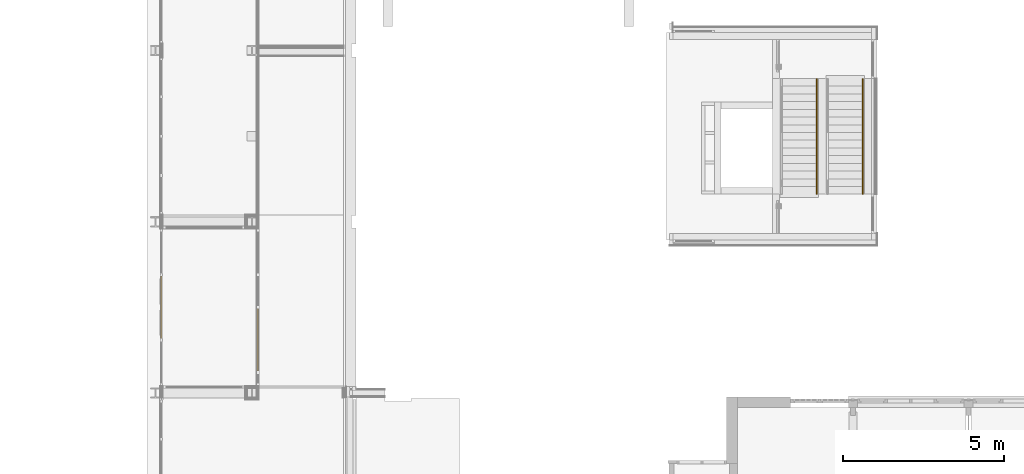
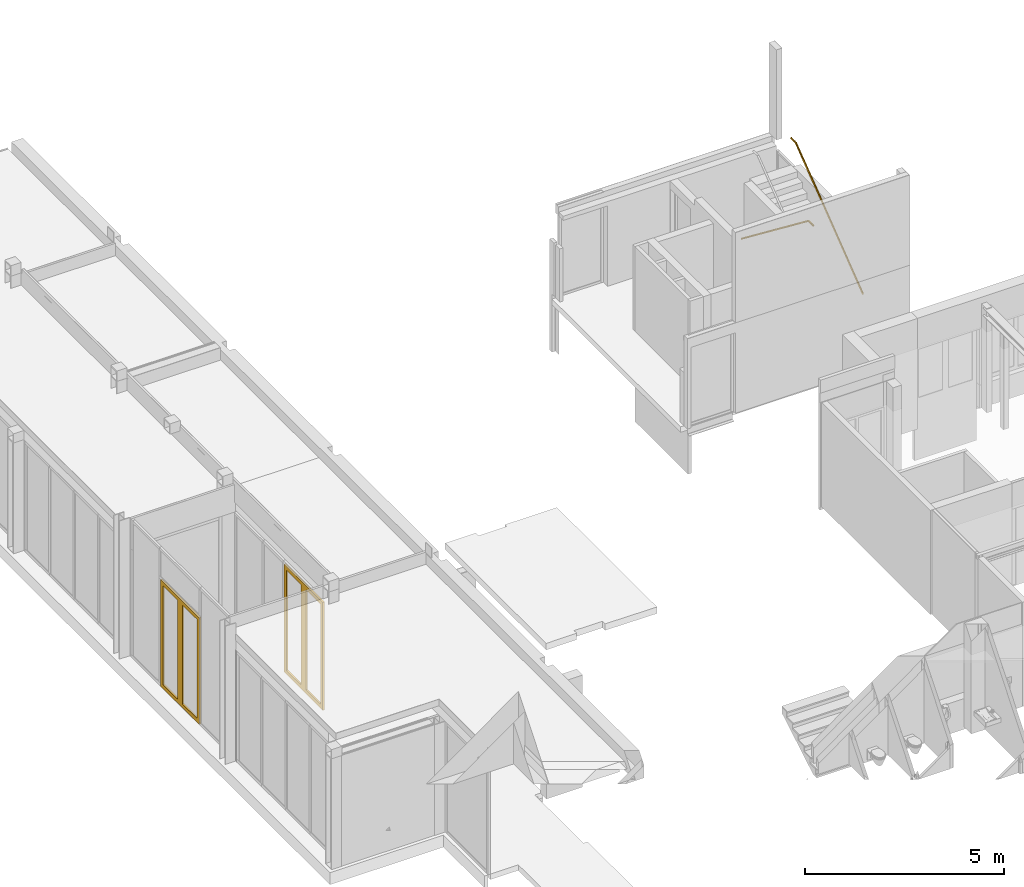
# One storey, part 79 of 99: 2 doors, 2 railings, 4 elements without a shape of their own.
"""IFC2X3 building model written with IfcOpenShell, lengths in millimetres."""

from ifc_helpers import new_model, entity, si_unit, converted_unit, derived_unit, money_unit, direction, frame, origin_with_axes, place, context, subcontext, project, spatial, faceted_brep, material, type_object, element, aggregate, save


model = new_model("IFC2X3")

# Units and contexts
model_context = context("Model", 3, precision=0.01, world=origin_with_axes(), true_north=direction((0.0, 1.0)))
body_context = subcontext(model_context, "Body", "Model", "MODEL_VIEW")
ifc_project = project(units=[si_unit("LENGTHUNIT", "METRE", prefix="MILLI"), si_unit("AREAUNIT", "SQUARE_METRE"), si_unit("VOLUMEUNIT", "CUBIC_METRE"), converted_unit("PLANEANGLEUNIT", "DEGREE", entity("IfcPlaneAngleMeasure", 0.0174532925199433), si_unit("PLANEANGLEUNIT", "RADIAN"), dimensions=[0, 0, 0, 0, 0, 0, 0]), money_unit("EUR"), converted_unit("TIMEUNIT", "Year", entity("IfcTimeMeasure", 31557600.0), si_unit("TIMEUNIT", "SECOND"), dimensions=[0, 0, 1, 0, 0, 0, 0]), si_unit("MASSUNIT", "GRAM", prefix="KILO"), si_unit("THERMODYNAMICTEMPERATUREUNIT", "DEGREE_CELSIUS"), si_unit("LUMINOUSINTENSITYUNIT", "LUMEN"), si_unit("ENERGYUNIT", "JOULE", prefix="MEGA"), derived_unit("THERMALCONDUCTANCEUNIT", [(si_unit("POWERUNIT", "WATT"), 1), (si_unit("LENGTHUNIT", "METRE"), -1), (si_unit("THERMODYNAMICTEMPERATUREUNIT", "KELVIN"), -1)]), derived_unit("SPECIFICHEATCAPACITYUNIT", [(si_unit("ENERGYUNIT", "JOULE"), 1), (si_unit("MASSUNIT", "GRAM", prefix="KILO"), -1), (si_unit("THERMODYNAMICTEMPERATUREUNIT", "KELVIN"), -1)]), derived_unit("MASSDENSITYUNIT", [(si_unit("MASSUNIT", "GRAM", prefix="KILO"), 1), (si_unit("VOLUMEUNIT", "CUBIC_METRE"), -1)])], contexts=[model_context])

# Site, building, storey
site_placement = place(None, origin_with_axes())
site = spatial("IfcSite", under=ifc_project, at=site_placement, Name="Site", CompositionType="ELEMENT")
building_placement = place(site_placement, origin_with_axes())
building = spatial("IfcBuilding", under=site, at=building_placement, Name="Naam gebouw", CompositionType="ELEMENT")
storey_placement = place(building_placement, frame((0.0, 0.0, 7650.0), z_axis=(0.0, 0.0, 1.0), x_axis=(1.0, 0.0, 0.0)))
storey = spatial("IfcBuildingStorey", under=building, at=storey_placement, Name="2e verdieping N", CompositionType="ELEMENT", Elevation=7650.0)

# Curtain wall, door
curtain_wall_type = type_object("IfcCurtainWallType", Name="Curtain Wall:21_CW_alu kozijn 084x065", PredefinedType="NOTDEFINED")
curtain_wall_1_placement = place(storey_placement, frame((0.0, 0.0, -7650.0), z_axis=(0.0, 0.0, 1.0), x_axis=(1.0, 0.0, 0.0)))
curtain_wall_1 = element("IfcCurtainWall", 1, at=curtain_wall_1_placement, inside=storey, type_object=curtain_wall_type, Name="Curtain Wall:21_CW_alu kozijn 084x065", ObjectType="Curtain Wall:21_CW_alu kozijn 084x065")
ifc_material_1 = material(Name="RAL 7024 - Grafietgrijs")
door_style_1 = type_object("IfcDoorStyle", Name="31_DO_stolpdeur_1:0std", ConstructionType="NOTDEFINED", OperationType="NOTDEFINED", ParameterTakesPrecedence=False, Sizeable=False)
door_1_placement = place(curtain_wall_1_placement, frame((14474.50000003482, 30620.91242632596, 4150.0), z_axis=(0.0, 0.0, 1.0), x_axis=(0.0, 1.0, 0.0)))
door_1 = element("IfcDoor", 2, at=door_1_placement, type_object=door_style_1, material=ifc_material_1, Name="31_DO_stolpdeur_1:0std", ObjectType="DOOR", context=body_context, shape_type="Brep", body=[
    faceted_brep([(0.0, -20.0, 0.0), (0.0, -20.0, 3278.0), (0.0, 5.000000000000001, 3278.0), (0.0, 5.000000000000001, 0.0), (972.9999914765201, -20.0, 0.0), (972.9999914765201, -20.0, 3278.0), (852.9999908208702, -20.0, 3157.99999934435), (852.9999908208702, -20.0, 120.0000006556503), (120.00000065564, -20.0, 120.0000006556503), (120.00000065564, -20.0, 3157.99999934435), (972.9999914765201, 5.000000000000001, 3278.0), (972.9999914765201, 5.000000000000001, 0.0), (852.9999908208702, 5.000000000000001, 3157.99999934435), (120.00000065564, 5.000000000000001, 3157.99999934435), (120.00000065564, 5.000000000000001, 120.0000006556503), (852.9999908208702, 5.000000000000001, 120.0000006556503)], [[[0, 1, 2, 3]], [[0, 4, 5, 1], [6, 7, 8, 9]], [[1, 5, 10, 2]], [[3, 2, 10, 11], [12, 13, 14, 15]], [[4, 0, 3, 11]], [[5, 4, 11, 10]], [[7, 6, 12, 15]], [[8, 7, 15, 14]], [[9, 8, 14, 13]], [[6, 9, 13, 12]]]),
    faceted_brep([(-972.9999999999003, -20.0, 0.0), (-972.9999999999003, -20.0, 3278.0), (-972.9999999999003, 5.000000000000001, 3278.0), (-972.9999999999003, 5.000000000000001, 0.0), (-8.523370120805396e-06, -20.0, 0.0), (-8.523370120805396e-06, -20.0, 3278.0), (-120.0000091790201, -20.0, 3157.99999934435), (-120.0000091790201, -20.0, 120.0000006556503), (-852.9999993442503, -20.0, 120.0000006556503), (-852.9999993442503, -20.0, 3157.99999934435), (-8.523370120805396e-06, 5.000000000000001, 3278.0), (-8.523370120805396e-06, 5.000000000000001, 0.0), (-120.0000091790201, 5.000000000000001, 3157.99999934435), (-852.9999993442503, 5.000000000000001, 3157.99999934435), (-852.9999993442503, 5.000000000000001, 120.0000006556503), (-120.0000091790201, 5.000000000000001, 120.0000006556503)], [[[0, 1, 2, 3]], [[0, 4, 5, 1], [6, 7, 8, 9]], [[1, 5, 10, 2]], [[3, 2, 10, 11], [12, 13, 14, 15]], [[4, 0, 3, 11]], [[5, 4, 11, 10]], [[7, 6, 12, 15]], [[8, 7, 15, 14]], [[9, 8, 14, 13]], [[6, 9, 13, 12]]]),
    faceted_brep([(-972.9999999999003, 5.0, 0.0), (-972.9999999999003, 5.0, 3278.0), (-972.9999999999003, 30.0, 3278.0), (-972.9999999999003, 30.0, 0.0), (-8.523370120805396e-06, 5.0, 0.0), (-8.523370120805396e-06, 5.0, 3278.0), (-120.0000091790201, 5.0, 3157.99999934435), (-120.0000091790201, 5.0, 120.0000006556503), (-852.9999993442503, 5.0, 120.0000006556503), (-852.9999993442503, 5.0, 3157.99999934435), (-8.523370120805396e-06, 30.0, 3278.0), (-8.523370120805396e-06, 30.0, 0.0), (-120.0000091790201, 30.0, 3157.99999934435), (-852.9999993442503, 30.0, 3157.99999934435), (-852.9999993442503, 30.0, 120.0000006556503), (-120.0000091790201, 30.0, 120.0000006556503)], [[[0, 1, 2, 3]], [[0, 4, 5, 1], [6, 7, 8, 9]], [[1, 5, 10, 2]], [[3, 2, 10, 11], [12, 13, 14, 15]], [[4, 0, 3, 11]], [[5, 4, 11, 10]], [[7, 6, 12, 15]], [[8, 7, 15, 14]], [[9, 8, 14, 13]], [[6, 9, 13, 12]]]),
    faceted_brep([(0.0, 5.0, 0.0), (0.0, 5.0, 3278.0), (0.0, 30.0, 3278.0), (0.0, 30.0, 0.0), (972.9999914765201, 5.0, 0.0), (972.9999914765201, 5.0, 3278.0), (852.9999908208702, 5.0, 3157.99999934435), (852.9999908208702, 5.0, 120.0000006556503), (120.00000065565, 5.0, 120.0000006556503), (120.00000065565, 5.0, 3157.99999934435), (972.9999914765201, 30.0, 3278.0), (972.9999914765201, 30.0, 0.0), (852.9999908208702, 30.0, 3157.99999934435), (120.00000065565, 30.0, 3157.99999934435), (120.00000065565, 30.0, 120.0000006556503), (852.9999908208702, 30.0, 120.0000006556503)], [[[0, 1, 2, 3]], [[0, 4, 5, 1], [6, 7, 8, 9]], [[1, 5, 10, 2]], [[3, 2, 10, 11], [12, 13, 14, 15]], [[4, 0, 3, 11]], [[5, 4, 11, 10]], [[7, 6, 12, 15]], [[8, 7, 15, 14]], [[9, 8, 14, 13]], [[6, 9, 13, 12]]]),
])
aggregate(curtain_wall_1, [door_1])

curtain_wall_2_placement = place(storey_placement, frame((0.0, 0.0, -7650.0), z_axis=(0.0, 0.0, 1.0), x_axis=(1.0, 0.0, 0.0)))
curtain_wall_2 = element("IfcCurtainWall", 3, at=curtain_wall_2_placement, inside=storey, type_object=curtain_wall_type, Name="Curtain Wall:21_CW_alu kozijn 084x065", ObjectType="Curtain Wall:21_CW_alu kozijn 084x065")
ifc_material_2 = material(Name="IFC Building Material")
door_style_2 = type_object("IfcDoorStyle", Name="31_DO_stolpdeur_1:0std", ConstructionType="NOTDEFINED", OperationType="NOTDEFINED", ParameterTakesPrecedence=False, Sizeable=False)
door_2_placement = place(curtain_wall_2_placement, frame((17473.50000007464, 29605.91242631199, 4150.0), z_axis=(0.0, 0.0, 1.0), x_axis=(0.0, 1.0, 0.0)))
door_2 = element("IfcDoor", 4, at=door_2_placement, type_object=door_style_2, material=ifc_material_2, Name="31_DO_stolpdeur_1:0std", ObjectType="DOOR", context=body_context, shape_type="Brep", body=[
    faceted_brep([(0.0, -20.0, 0.0), (0.0, -20.0, 3316.0), (0.0, 5.000000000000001, 3316.0), (0.0, 5.000000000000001, 0.0), (972.9999860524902, -20.0, 0.0), (972.9999860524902, -20.0, 3316.0), (852.9999976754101, -20.0, 3196.00001162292), (852.9999976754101, -20.0, 119.9999883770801), (119.99998837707, -20.0, 119.9999883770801), (119.99998837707, -20.0, 3196.00001162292), (972.9999860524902, 5.000000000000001, 3316.0), (972.9999860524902, 5.000000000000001, 0.0), (852.9999976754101, 5.000000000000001, 3196.00001162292), (119.99998837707, 5.000000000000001, 3196.00001162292), (119.99998837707, 5.000000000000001, 119.9999883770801), (852.9999976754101, 5.000000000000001, 119.9999883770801)], [[[0, 1, 2, 3]], [[0, 4, 5, 1], [6, 7, 8, 9]], [[1, 5, 10, 2]], [[3, 2, 10, 11], [12, 13, 14, 15]], [[4, 0, 3, 11]], [[5, 4, 11, 10]], [[7, 6, 12, 15]], [[8, 7, 15, 14]], [[9, 8, 14, 13]], [[6, 9, 13, 12]]]),
    faceted_brep([(-973.0000000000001, -20.0, 0.0), (-973.0000000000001, -20.0, 3316.0), (-973.0000000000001, 5.000000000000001, 3316.0), (-973.0000000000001, 5.000000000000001, 0.0), (-1.394749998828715e-05, -20.0, 0.0), (-1.394749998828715e-05, -20.0, 3316.0), (-120.00000232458, -20.0, 3196.00001162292), (-120.00000232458, -20.0, 119.9999883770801), (-853.0000116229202, -20.0, 119.9999883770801), (-853.0000116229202, -20.0, 3196.00001162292), (-1.394749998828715e-05, 5.000000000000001, 3316.0), (-1.394749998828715e-05, 5.000000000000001, 0.0), (-120.00000232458, 5.000000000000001, 3196.00001162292), (-853.0000116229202, 5.000000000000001, 3196.00001162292), (-853.0000116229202, 5.000000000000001, 119.9999883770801), (-120.00000232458, 5.000000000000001, 119.9999883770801)], [[[0, 1, 2, 3]], [[0, 4, 5, 1], [6, 7, 8, 9]], [[1, 5, 10, 2]], [[3, 2, 10, 11], [12, 13, 14, 15]], [[4, 0, 3, 11]], [[5, 4, 11, 10]], [[7, 6, 12, 15]], [[8, 7, 15, 14]], [[9, 8, 14, 13]], [[6, 9, 13, 12]]]),
    faceted_brep([(-973.0000000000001, 5.0, 0.0), (-973.0000000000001, 5.0, 3316.0), (-973.0000000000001, 30.0, 3316.0), (-973.0000000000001, 30.0, 0.0), (-1.394749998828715e-05, 5.0, 0.0), (-1.394749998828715e-05, 5.0, 3316.0), (-120.00000232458, 5.0, 3196.00001162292), (-120.00000232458, 5.0, 119.9999883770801), (-853.0000116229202, 5.0, 119.9999883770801), (-853.0000116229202, 5.0, 3196.00001162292), (-1.394749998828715e-05, 30.0, 3316.0), (-1.394749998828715e-05, 30.0, 0.0), (-120.00000232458, 30.0, 3196.00001162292), (-853.0000116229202, 30.0, 3196.00001162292), (-853.0000116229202, 30.0, 119.9999883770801), (-120.00000232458, 30.0, 119.9999883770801)], [[[0, 1, 2, 3]], [[0, 4, 5, 1], [6, 7, 8, 9]], [[1, 5, 10, 2]], [[3, 2, 10, 11], [12, 13, 14, 15]], [[4, 0, 3, 11]], [[5, 4, 11, 10]], [[7, 6, 12, 15]], [[8, 7, 15, 14]], [[9, 8, 14, 13]], [[6, 9, 13, 12]]]),
    faceted_brep([(0.0, 5.0, 0.0), (0.0, 5.0, 3316.0), (0.0, 30.0, 3316.0), (0.0, 30.0, 0.0), (972.9999860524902, 5.0, 0.0), (972.9999860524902, 5.0, 3316.0), (852.9999976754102, 5.0, 3196.00001162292), (852.9999976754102, 5.0, 119.9999883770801), (119.99998837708, 5.0, 119.9999883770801), (119.99998837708, 5.0, 3196.00001162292), (972.9999860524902, 30.0, 3316.0), (972.9999860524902, 30.0, 0.0), (852.9999976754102, 30.0, 3196.00001162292), (119.99998837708, 30.0, 3196.00001162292), (119.99998837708, 30.0, 119.9999883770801), (852.9999976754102, 30.0, 119.9999883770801)], [[[0, 1, 2, 3]], [[0, 4, 5, 1], [6, 7, 8, 9]], [[1, 5, 10, 2]], [[3, 2, 10, 11], [12, 13, 14, 15]], [[4, 0, 3, 11]], [[5, 4, 11, 10]], [[7, 6, 12, 15]], [[8, 7, 15, 14]], [[9, 8, 14, 13]], [[6, 9, 13, 12]]]),
])
aggregate(curtain_wall_2, [door_2])

# Stair, railing
stair_1_placement = place(storey_placement, frame((0.0, 0.0, -7650.0), z_axis=(0.0, 0.0, 1.0), x_axis=(1.0, 0.0, 0.0)))
stair_1 = element("IfcStair", 5, at=stair_1_placement, inside=storey, Name="Precast Stair:Stair", ObjectType="Precast Stair:24_trap - prefab", ShapeType="NOTDEFINED")
ifc_material_3 = material(Name="baluster_staal")
railing_type = type_object("IfcRailingType", Name="Railing:44_3B_leuning - staal Ø40", PredefinedType="NOTDEFINED")
railing_1_placement = place(stair_1_placement, frame((36328.59527225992, 34145.91242629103, 6977.836143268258), z_axis=(0.0, 0.0, 1.0), x_axis=(0.0, 1.0, 0.0)))
railing_1 = element("IfcRailing", 6, at=railing_1_placement, type_object=railing_type, material=ifc_material_3, Name="Railing:44_3B_leuning - staal Ø40", PredefinedType="NOTDEFINED", context=body_context, shape_type="Brep", body=[
    faceted_brep([(0.0, 31.59527223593, 48.68489197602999), (0.0, 34.09527223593, 43.22129983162), (0.0, 36.59527223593, 37.75770768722), (0.0, 39.6340011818, 31.11675744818), (0.0, 41.59527223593, 26.83052339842), (0.0, 39.09527223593, 21.36693125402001), (0.0, 36.59527223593, 15.90333910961), (0.0, 34.09527223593, 10.43974696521), (0.0, 31.59527223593, 4.976154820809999), (0.0, 26.59527223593, 4.976154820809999), (0.0, 21.59527223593, 4.976154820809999), (0.0, 16.59527223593, 4.976154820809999), (0.0, 11.59527223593, 4.976154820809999), (0.0, 9.095272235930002, 10.43974696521), (0.0, 6.59527223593, 15.90333910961), (0.0, 4.09527223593, 21.36693125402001), (0.0, 1.59527223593, 26.83052339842), (0.0, 3.556543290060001, 31.11675744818), (0.0, 5.517814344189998, 35.40299149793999), (0.0, 8.556543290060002, 42.04394173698), (0.0, 11.59527223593, 48.68489197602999), (0.0, 16.59527223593, 48.68489197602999), (0.0, 21.59527223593, 48.68489197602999), (0.0, 26.59527223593, 48.68489197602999), (3354.10761812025, 31.59527223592, 2629.48436480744), (3355.58071359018, 34.09527223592, 2625.15423778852), (3357.05380906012, 36.59527223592, 2620.8241107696), (3358.52690453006, 39.09527223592, 2616.49398375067), (3360.0, 41.59527223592, 2612.16385673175), (3361.15332459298, 39.63795749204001, 2608.77368814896), (3361.27789838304, 39.4265424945, 2608.40750663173), (3362.30664918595, 37.68064274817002, 2605.38351956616), (3362.55579676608, 37.25781275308, 2604.6511565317), (3364.09951553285, 34.63795749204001, 2600.11343411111), (3364.22408932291, 34.4265424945, 2599.74725259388), (3365.89238187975, 31.59527223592, 2594.84334865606), (3365.89238187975, 16.59527223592, 2594.84334865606), (3365.89238187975, 11.59527223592, 2594.84334865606), (3365.89238187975, 26.59527223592, 2594.84334865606), (3365.89238187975, 21.59527223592, 2594.84334865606), (3364.41928640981, 9.095272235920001, 2599.17347567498), (3362.94619093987, 6.595272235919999, 2603.50360269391), (3361.27789838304, 3.76400197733, 2608.40750663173), (3361.15332459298, 3.55258697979, 2608.77368814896), (3360.0, 1.59527223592, 2612.16385673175), (3358.52690453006, 4.095272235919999, 2616.49398375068), (3357.05380906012, 6.595272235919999, 2620.8241107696), (3355.58071359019, 9.095272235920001, 2625.15423778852), (3354.10761812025, 11.59527223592, 2629.48436480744), (3354.10761812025, 16.59527223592, 2629.48436480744), (3354.10761812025, 21.59527223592, 2629.48436480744), (3354.10761812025, 26.59527223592, 2629.48436480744), (3600.0, 39.48625981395, 2615.81677340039), (3600.0, 41.59527223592, 2612.16385673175), (3600.0, 31.59527223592, 2629.48436480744), (3600.0, 34.09527223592, 2625.15423778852), (3600.0, 36.59527223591, 2620.8241107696), (3600.0, 36.59527223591, 2603.50360269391), (3600.0, 34.09527223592, 2599.17347567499), (3600.0, 31.59527223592, 2594.84334865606), (3600.0, 39.09527223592, 2607.83372971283), (3600.0, 26.59527223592, 2594.84334865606), (3600.0, 21.59527223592, 2594.84334865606), (3600.0, 16.59527223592, 2594.84334865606), (3600.0, 11.59527223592, 2594.84334865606), (3600.0, 1.59527223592, 2612.16385673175), (3600.0, 9.095272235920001, 2599.17347567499), (3600.0, 6.595272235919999, 2603.50360269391), (3600.0, 4.095272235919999, 2607.83372971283), (3600.0, 3.704284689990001, 2615.81677345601), (3600.0, 5.81329714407, 2619.46969018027), (3600.0, 8.704284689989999, 2624.47702749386), (3600.0, 11.59527223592, 2629.48436480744), (3600.0, 26.59527223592, 2629.48436480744), (3600.0, 16.59527223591, 2629.48436480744), (3600.0, 21.59527223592, 2629.48436480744)], [[[0, 1, 2, 3, 4, 5, 6, 7, 8, 9, 10, 11, 12, 13, 14, 15, 16, 17, 18, 19, 20, 21, 22, 23]], [[2, 1, 0, 24, 25, 26, 27, 28, 4, 3]], [[7, 6, 5, 4, 28, 29, 30, 31, 32, 33, 34, 35, 8]], [[36, 37, 12, 11, 10, 9, 8, 35, 38, 39]], [[15, 14, 13, 12, 37, 40, 41, 42, 43, 44, 16]], [[20, 19, 18, 17, 16, 44, 45, 46, 47, 48]], [[22, 21, 20, 48, 49, 50, 51, 24, 0, 23]], [[52, 53, 28, 27, 26, 25, 24, 54, 55, 56]], [[57, 58, 59, 35, 34, 33, 32, 31, 30, 29, 28, 53, 60]], [[39, 38, 35, 59, 61, 62, 63, 64, 37, 36]], [[65, 44, 43, 42, 41, 40, 37, 64, 66, 67, 68]], [[46, 45, 44, 65, 69, 70, 71, 72, 48, 47]], [[73, 54, 24, 51, 50, 49, 48, 72, 74, 75]], [[68, 67, 66, 64, 63, 62, 61, 59, 58, 57, 60, 53, 52, 56, 55, 54, 73, 75, 74, 72, 71, 70, 69, 65]]]),
])
aggregate(stair_1, [railing_1])

stair_2_placement = place(storey_placement, frame((0.0, 0.0, -7650.0), z_axis=(0.0, 0.0, 1.0), x_axis=(1.0, 0.0, 0.0)))
stair_2 = element("IfcStair", 7, at=stair_2_placement, inside=storey, Name="Precast Stair:Stair", ObjectType="Precast Stair:24_trap - prefab", ShapeType="NOTDEFINED")
railing_2_placement = place(stair_2_placement, frame((34894.59527228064, 34145.91242623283, 6977.836143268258), z_axis=(0.0, 0.0, 1.0), x_axis=(0.0, 1.0, 0.0)))
railing_2 = element("IfcRailing", 8, at=railing_2_placement, type_object=railing_type, material=ifc_material_3, Name="Railing:44_3B_leuning - staal Ø40", PredefinedType="NOTDEFINED", context=body_context, shape_type="Brep", body=[
    faceted_brep([(3600.0, 11.59527223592, 48.68489197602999), (3600.0, 9.095272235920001, 43.22129983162), (3600.0, 6.595272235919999, 37.75770768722), (3600.0, 3.55654329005, 31.11675744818), (3600.0, 1.59527223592, 26.83052339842), (3600.0, 4.095272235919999, 21.36693125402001), (3600.0, 6.595272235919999, 15.90333910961), (3600.0, 9.095272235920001, 10.43974696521), (3600.0, 11.59527223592, 4.976154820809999), (3600.0, 16.59527223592, 4.976154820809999), (3600.0, 21.59527223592, 4.976154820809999), (3600.0, 26.59527223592, 4.976154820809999), (3600.0, 31.59527223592, 4.976154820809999), (3600.0, 34.09527223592, 10.43974696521), (3600.0, 36.59527223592, 15.90333910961), (3600.0, 39.09527223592, 21.36693125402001), (3600.0, 41.59527223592, 26.83052339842), (3600.0, 39.63400118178, 31.11675744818), (3600.0, 37.67273012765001, 35.40299149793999), (3600.0, 34.63400118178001, 42.04394173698), (3600.0, 31.59527223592, 48.68489197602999), (3600.0, 26.59527223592, 48.68489197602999), (3600.0, 21.59527223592, 48.68489197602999), (3600.0, 16.59527223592, 48.68489197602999), (245.89238187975, 11.59527223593, 2629.48436480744), (244.4192864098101, 9.095272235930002, 2625.15423778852), (242.94619093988, 6.59527223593, 2620.82411076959), (241.47309546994, 4.09527223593, 2616.49398375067), (240.0, 1.59527223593, 2612.16385673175), (238.84667540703, 3.5525869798, 2608.77368814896), (238.72210158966, 3.76400202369, 2608.40750655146), (237.69335081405, 5.509901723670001, 2605.38351956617), (237.4442031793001, 5.932731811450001, 2604.65115637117), (235.9004844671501, 8.552586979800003, 2600.11343411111), (235.77591064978, 8.764002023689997, 2599.74725251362), (234.10761812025, 11.59527223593, 2594.84334865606), (234.10761812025, 26.59527223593, 2594.84334865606), (234.10761812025, 31.59527223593, 2594.84334865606), (234.10761812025, 16.59527223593, 2594.84334865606), (234.10761812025, 21.59527223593, 2594.84334865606), (235.58071359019, 34.09527223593, 2599.17347567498), (237.05380906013, 36.59527223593, 2603.50360269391), (238.72210161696, 39.42654249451, 2608.40750663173), (238.84667540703, 39.63795749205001, 2608.77368814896), (240.0, 41.59527223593, 2612.16385673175), (241.47309546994, 39.09527223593, 2616.49398375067), (242.94619093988, 36.59527223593, 2620.8241107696), (244.4192864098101, 34.09527223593, 2625.15423778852), (245.89238187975, 31.59527223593, 2629.48436480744), (245.89238187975, 26.59527223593, 2629.48436480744), (245.89238187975, 21.59527223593, 2629.48436480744), (245.89238187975, 16.59527223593, 2629.48436480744), (0.0, 9.095272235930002, 2625.15423778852), (0.0, 6.59527223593, 2620.8241107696), (0.0, 3.704284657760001, 2615.81677340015), (0.0, 1.59527223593, 2612.16385673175), (0.0, 11.59527223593, 2629.48436480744), (0.0, 6.59527223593, 2603.50360269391), (0.0, 9.095272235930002, 2599.17347567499), (0.0, 11.59527223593, 2594.84334865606), (0.0, 4.09527223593, 2607.83372971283), (0.0, 16.59527223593, 2594.84334865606), (0.0, 21.59527223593, 2594.84334865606), (0.0, 26.59527223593, 2594.84334865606), (0.0, 31.59527223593, 2594.84334865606), (0.0, 34.09527223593, 2599.17347567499), (0.0, 36.59527223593, 2603.50360269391), (0.0, 39.09527223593, 2607.83372971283), (0.0, 41.59527223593, 2612.16385673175), (0.0, 39.48625981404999, 2615.81677340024), (0.0, 37.37724739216, 2619.46969006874), (0.0, 34.48625981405, 2624.47702743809), (0.0, 31.59527223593, 2629.48436480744), (0.0, 26.59527223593, 2629.48436480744), (0.0, 21.59527223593, 2629.48436480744), (0.0, 16.59527223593, 2629.48436480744)], [[[0, 1, 2, 3, 4, 5, 6, 7, 8, 9, 10, 11, 12, 13, 14, 15, 16, 17, 18, 19, 20, 21, 22, 23]], [[2, 1, 0, 24, 25, 26, 27, 28, 4, 3]], [[7, 6, 5, 4, 28, 29, 30, 31, 32, 33, 34, 35, 8]], [[36, 37, 12, 11, 10, 9, 8, 35, 38, 39]], [[15, 14, 13, 12, 37, 40, 41, 42, 43, 44, 16]], [[20, 19, 18, 17, 16, 44, 45, 46, 47, 48]], [[22, 21, 20, 48, 49, 50, 51, 24, 0, 23]], [[52, 53, 54, 55, 28, 27, 26, 25, 24, 56]], [[57, 58, 59, 35, 34, 33, 32, 31, 30, 29, 28, 55, 60]], [[39, 38, 35, 59, 61, 62, 63, 64, 37, 36]], [[65, 66, 67, 68, 44, 43, 42, 41, 40, 37, 64]], [[46, 45, 44, 68, 69, 70, 71, 72, 48, 47]], [[50, 49, 48, 72, 73, 74, 75, 56, 24, 51]], [[67, 66, 65, 64, 63, 62, 61, 59, 58, 57, 60, 55, 54, 53, 52, 56, 75, 74, 73, 72, 71, 70, 69, 68]]]),
])
aggregate(stair_2, [railing_2])

save(model, "model.ifc")
